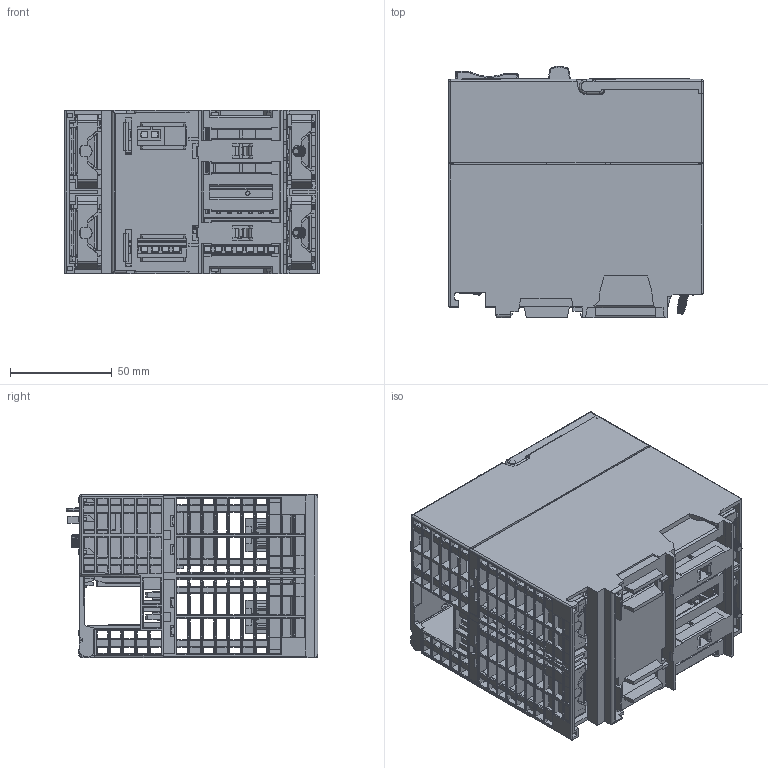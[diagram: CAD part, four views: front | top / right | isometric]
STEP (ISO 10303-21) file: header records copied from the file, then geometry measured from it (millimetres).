
FILE_DESCRIPTION((''),'2;1');
FILE_NAME('312-5BE13','2013-07-25T',('TReuther'),(''),'PRO/ENGINEER BY PARAMETRIC TECHNOLOGY CORPORATION, 2012130','PRO/ENGINEER BY PARAMETRIC TECHNOLOGY CORPORATION, 2012130','');
FILE_SCHEMA(('CONFIG_CONTROL_DESIGN'));
Products named in the file (1): 312-5BE13
Bounding box: 125 x 123.3 x 80 mm (x, y, z)
Volume: 110922.7 mm3; surface area: 220647.7 mm2
Topology: 13 solids, 15 shells, 7145 faces, 21462 edges, 14083 vertices
Faces by surface type: plane 5545, cylinder 1207, bspline 226, cone 78, torus 55, sphere 27, extrusion 7
Entity records: 263586 total; most frequent: CARTESIAN_POINT 73417, ORIENTED_EDGE 42880, DIRECTION 34582, EDGE_CURVE 21441, VECTOR 18014, LINE 18007, VERTEX_POINT 14083, AXIS2_PLACEMENT_3D 8284
